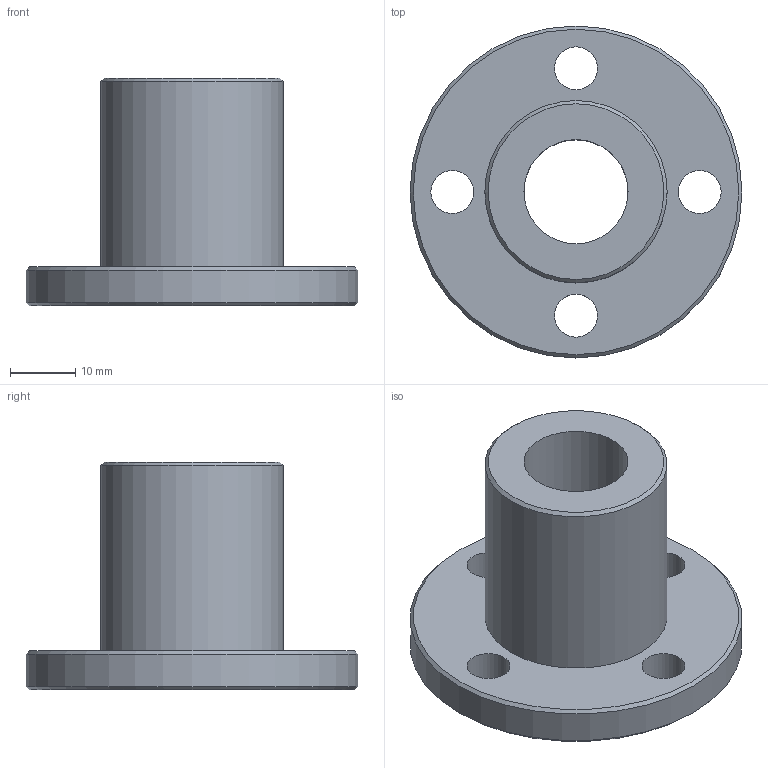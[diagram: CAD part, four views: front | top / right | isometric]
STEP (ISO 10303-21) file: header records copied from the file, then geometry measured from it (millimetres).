
FILE_DESCRIPTION(('STEP AP203'),'1');
FILE_NAME('//192.168.1.1/share/s-4 技術開発/s-4-4_CAD/s-4-4-3_見直し済み/018 修正済み/TMFON/TMFON_TOP/TMFON-16R.step','2022-02-08T05:49:17',(' '),(' '),'Spatial InterOp 3D',' ',' ');
FILE_SCHEMA(('CONFIG_CONTROL_DESIGN'));
Length unit declared in the file: millimetre
Products named in the file (1): 1
Bounding box: 51 x 51 x 35 mm (x, y, z)
Volume: 22204.8 mm3; surface area: 9058.4 mm2
Topology: 1 solids, 1 shells, 13 faces, 27 edges, 17 vertices
Faces by surface type: cylinder 7, plane 3, cone 3
Full cylindrical faces by diameter (mm): 6.6 x4, 16 x1, 28 x1, 51 x1
Entity records: 368 total; most frequent: DIRECTION 62, CARTESIAN_POINT 48, EDGE_LOOP 34, ORIENTED_EDGE 34, AXIS2_PLACEMENT_3D 31, FACE_OUTER_BOUND 20, EDGE_CURVE 17, VERTEX_POINT 17
